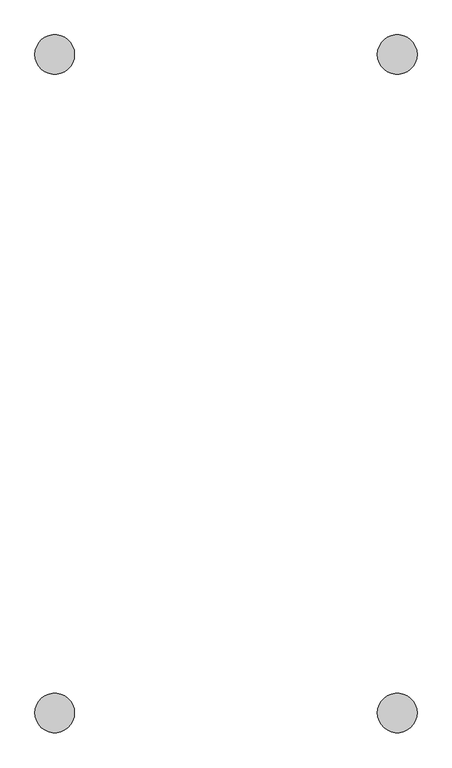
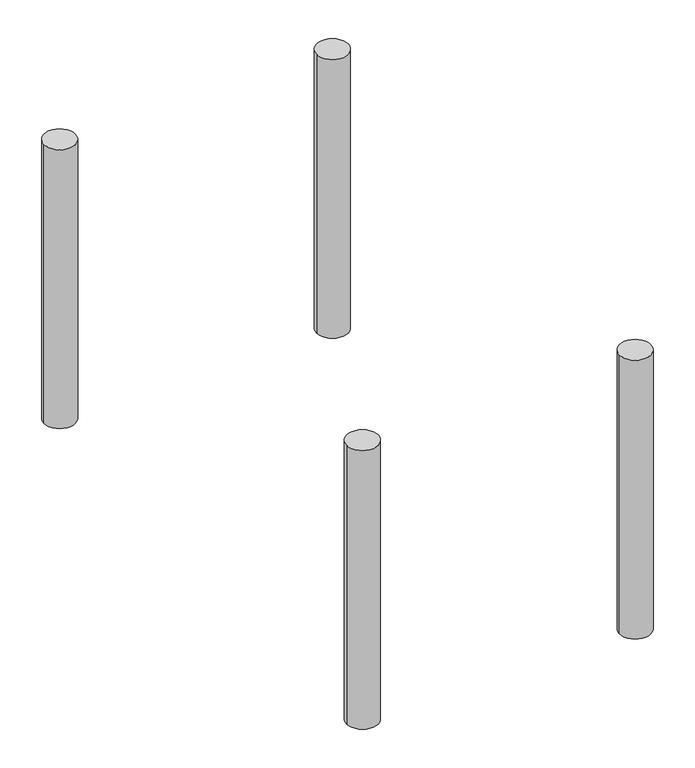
"""IFC4 building model written with IfcOpenShell, lengths in millimetres: proxy geometry, 常规模型 1 : 常规模型 1."""

from ifc_helpers import new_model, si_unit, point, frame, frame_2d, origin, place, context, project, spatial, circle_curve, trimmed, segment, composite_curve, outline, extrude, source, transform, mapped, element, save


def generic_models_c4da7987(model_context):
    return source(origin(), model_context, "Body", "SweptSolid", [
        extrude(outline(composite_curve([segment(trimmed(circle_curve(frame_2d((-49357.1400177, -22007.7106127)), 150.0), [point((-49507.1400177, -22007.7106127))], [point((-49207.1400177, -22007.7106127))], False, "CARTESIAN"), True, "CONTINUOUS"), segment(trimmed(circle_curve(frame_2d((-49357.1400177, -22007.7106127)), 150.0), [point((-49207.1400177, -22007.7106127))], [point((-49507.1400177, -22007.7106127))], False, "CARTESIAN"), True, "CONTINUOUS")], self_intersect=False)), frame((0.0, 0.0, 3125.0), z_axis=(0.0, 0.0, 1.0), x_axis=(1.0, 0.0, 0.0)), (0.0, 0.0, 1.0), 2810.0),
        extrude(outline(composite_curve([segment(trimmed(circle_curve(frame_2d((-46757.1400177, -22007.7106127)), 150.0), [point((-46907.1400177, -22007.7106127))], [point((-46607.1400177, -22007.7106127))], False, "CARTESIAN"), True, "CONTINUOUS"), segment(trimmed(circle_curve(frame_2d((-46757.1400177, -22007.7106127)), 150.0), [point((-46607.1400177, -22007.7106127))], [point((-46907.1400177, -22007.7106127))], False, "CARTESIAN"), True, "CONTINUOUS")], self_intersect=False)), frame((0.0, 0.0, 3125.0), z_axis=(0.0, 0.0, 1.0), x_axis=(1.0, 0.0, 0.0)), (0.0, 0.0, 1.0), 2810.0),
        extrude(outline(composite_curve([segment(trimmed(circle_curve(frame_2d((-49357.1400177, -27007.7106127)), 150.0), [point((-49507.1400177, -27007.7106127))], [point((-49207.1400177, -27007.7106127))], False, "CARTESIAN"), True, "CONTINUOUS"), segment(trimmed(circle_curve(frame_2d((-49357.1400177, -27007.7106127)), 150.0), [point((-49207.1400177, -27007.7106127))], [point((-49507.1400177, -27007.7106127))], False, "CARTESIAN"), True, "CONTINUOUS")], self_intersect=False)), frame((0.0, 0.0, 3125.0), z_axis=(0.0, 0.0, 1.0), x_axis=(1.0, 0.0, 0.0)), (0.0, 0.0, 1.0), 2810.0),
        extrude(outline(composite_curve([segment(trimmed(circle_curve(frame_2d((-46757.1400177, -27007.7106127)), 150.0), [point((-46907.1400177, -27007.7106127))], [point((-46607.1400177, -27007.7106127))], False, "CARTESIAN"), True, "CONTINUOUS"), segment(trimmed(circle_curve(frame_2d((-46757.1400177, -27007.7106127)), 150.0), [point((-46607.1400177, -27007.7106127))], [point((-46907.1400177, -27007.7106127))], False, "CARTESIAN"), True, "CONTINUOUS")], self_intersect=False)), frame((0.0, 0.0, 3125.0), z_axis=(0.0, 0.0, 1.0), x_axis=(1.0, 0.0, 0.0)), (0.0, 0.0, 1.0), 2810.0),
    ])


if __name__ == "__main__":
    model = new_model("IFC4")
    model_context = context("Model", 3, world=origin())
    ifc_project = project(units=[si_unit("LENGTHUNIT", "METRE", prefix="MILLI")], contexts=[model_context])
    site = spatial("IfcSite", under=ifc_project)
    building = spatial("IfcBuilding", under=site)
    placement = place(None, origin())
    generic_models_shape = generic_models_c4da7987(model_context)
    element("IfcBuildingElementProxy", 1, Name="常规模型 1 : 常规模型 1", ObjectType="常规模型 1 : 常规模型 1", at=placement, inside=building, context=model_context, shape_type="MappedRepresentation", body=[
        mapped(generic_models_shape, transform((0.0, 0.0, 0.0), x_axis=(1.0, 0.0, 0.0), y_axis=(0.0, 1.0, 0.0), z_axis=(0.0, 0.0, 1.0))),
    ])
    save(model, "model.ifc")
